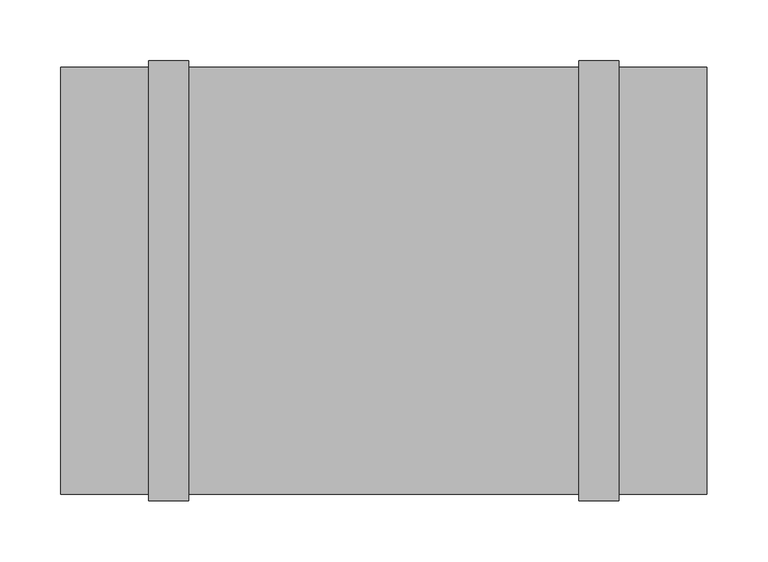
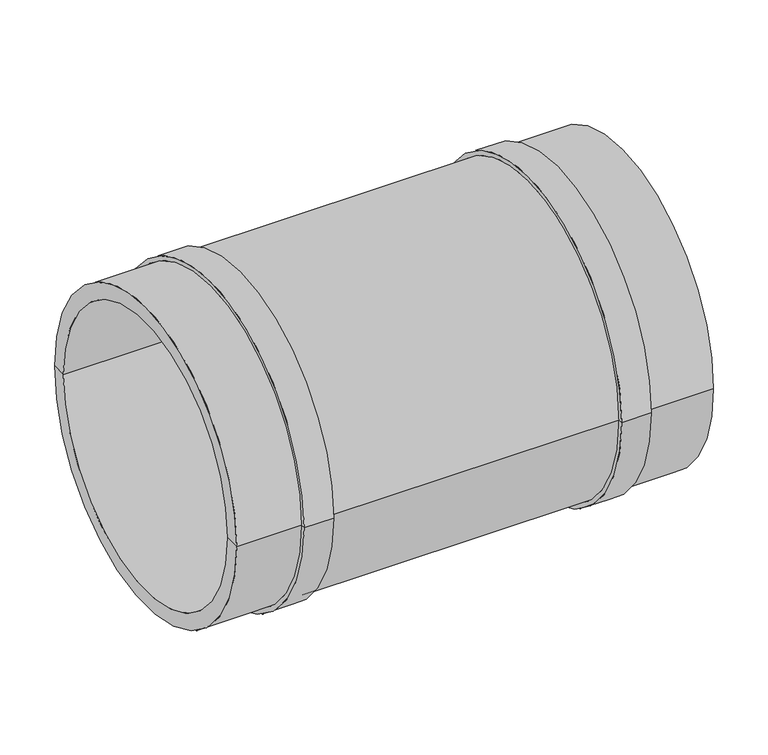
"""IFC4 building model written with IfcOpenShell, lengths in millimetres: pipe fitting geometry, PlastigamaWavin_Unionesdetubería_Presión UZ_UnióndeReparación : Unión Reparación Larga U/Z."""

from ifc_helpers import new_model, si_unit, frame, origin, place, context, project, spatial, polyline, circle_curve, source, transform, mapped, element, save
from ifc_brep_helpers import plane_surface, cylinder_surface, revolved_surface, advanced_brep


def pipe_fitting_89f5fbe8(model_context):
    return source(origin(), model_context, "Body", "AdvancedBrep", [
        advanced_brep(
        [(-265.0, -175.3, 0.0), (-265.0, 175.3, 0.0), (-193.0, 175.3, 0.0), (-193.0, -175.3, 0.0), (-265.0, -158.05, 0.0), (-265.0, 158.05, 0.0), (265.0, -158.05, 0.0), (265.0, 158.05, 0.0), (-193.0, -180.3, 0.0), (-193.0, 180.3, 0.0), (-160.0, 180.3, 0.0), (-160.0, -180.3, 0.0), (265.0, -175.3, 0.0), (265.0, 175.3, 0.0), (193.0, -175.3, 0.0), (193.0, 175.3, 0.0), (193.0, -180.3, 0.0), (193.0, 180.3, 0.0), (160.0, -180.3, 0.0), (160.0, 180.3, 0.0), (160.0, -175.3, 0.0), (160.0, 175.3, 0.0), (-160.0, -175.3, 0.0), (-160.0, 175.3, 0.0)],
        [
            (0, 1, circle_curve(frame((-265.0, 0.0, 0.0), z_axis=(1.0, 0.0, 0.0), x_axis=(0.0, 1.0, 0.0)), 175.3)),
            (1, 2),
            (2, 3, circle_curve(frame((-193.0, 0.0, 0.0), z_axis=(-1.0, 0.0, 0.0), x_axis=(0.0, 1.0, 0.0)), 175.3)),
            (3, 0),
            (1, 0, circle_curve(frame((-265.0, 0.0, 0.0), z_axis=(1.0, 0.0, 0.0), x_axis=(0.0, 1.0, 0.0)), 175.3)),
            (3, 2, circle_curve(frame((-193.0, 0.0, 0.0), z_axis=(-1.0, 0.0, 0.0), x_axis=(0.0, 1.0, 0.0)), 175.3)),
            (4, 5, circle_curve(frame((-265.0, 0.0, 0.0), z_axis=(1.0, 0.0, 0.0), x_axis=(0.0, 1.0, 0.0)), 158.05)),
            (5, 1),
            (0, 4),
            (5, 4, circle_curve(frame((-265.0, 0.0, 0.0), z_axis=(1.0, 0.0, 0.0), x_axis=(0.0, 1.0, 0.0)), 158.05)),
            (6, 7, circle_curve(frame((265.0, 0.0, 0.0), z_axis=(1.0, 0.0, 0.0), x_axis=(0.0, 1.0, 0.0)), 158.05)),
            (7, 5),
            (4, 6),
            (7, 6, circle_curve(frame((265.0, 0.0, 0.0), z_axis=(1.0, 0.0, 0.0), x_axis=(0.0, 1.0, 0.0)), 158.05)),
            (8, 9, circle_curve(frame((-193.0, 0.0, 0.0), z_axis=(1.0, 0.0, 0.0), x_axis=(0.0, 1.0, 0.0)), 180.3)),
            (9, 10),
            (10, 11, circle_curve(frame((-160.0, 0.0, 0.0), z_axis=(-1.0, 0.0, 0.0), x_axis=(0.0, 1.0, 0.0)), 180.3)),
            (11, 8),
            (9, 8, circle_curve(frame((-193.0, 0.0, 0.0), z_axis=(1.0, 0.0, 0.0), x_axis=(0.0, 1.0, 0.0)), 180.3)),
            (11, 10, circle_curve(frame((-160.0, 0.0, 0.0), z_axis=(-1.0, 0.0, 0.0), x_axis=(0.0, 1.0, 0.0)), 180.3)),
            (2, 9),
            (8, 3),
            (12, 13, circle_curve(frame((265.0, 0.0, 0.0), z_axis=(1.0, 0.0, 0.0), x_axis=(0.0, 1.0, 0.0)), 175.3)),
            (13, 7),
            (6, 12),
            (13, 12, circle_curve(frame((265.0, 0.0, 0.0), z_axis=(1.0, 0.0, 0.0), x_axis=(0.0, 1.0, 0.0)), 175.3)),
            (14, 15, circle_curve(frame((193.0, 0.0, 0.0), z_axis=(1.0, 0.0, 0.0), x_axis=(0.0, 1.0, 0.0)), 175.3)),
            (15, 13),
            (12, 14),
            (15, 14, circle_curve(frame((193.0, 0.0, 0.0), z_axis=(1.0, 0.0, 0.0), x_axis=(0.0, 1.0, 0.0)), 175.3)),
            (16, 17, circle_curve(frame((193.0, 0.0, 0.0), z_axis=(1.0, 0.0, 0.0), x_axis=(0.0, 1.0, 0.0)), 180.3)),
            (17, 15),
            (14, 16),
            (17, 16, circle_curve(frame((193.0, 0.0, 0.0), z_axis=(1.0, 0.0, 0.0), x_axis=(0.0, 1.0, 0.0)), 180.3)),
            (18, 19, circle_curve(frame((160.0, 0.0, 0.0), z_axis=(1.0, 0.0, 0.0), x_axis=(0.0, 1.0, 0.0)), 180.3)),
            (19, 17),
            (16, 18),
            (19, 18, circle_curve(frame((160.0, 0.0, 0.0), z_axis=(1.0, 0.0, 0.0), x_axis=(0.0, 1.0, 0.0)), 180.3)),
            (20, 21, circle_curve(frame((160.0, 0.0, 0.0), z_axis=(1.0, 0.0, 0.0), x_axis=(0.0, 1.0, 0.0)), 175.3)),
            (21, 19),
            (18, 20),
            (21, 20, circle_curve(frame((160.0, 0.0, 0.0), z_axis=(1.0, 0.0, 0.0), x_axis=(0.0, 1.0, 0.0)), 175.3)),
            (22, 23, circle_curve(frame((-160.0, 0.0, 0.0), z_axis=(1.0, 0.0, 0.0), x_axis=(0.0, 1.0, 0.0)), 175.3)),
            (23, 21),
            (20, 22),
            (23, 22, circle_curve(frame((-160.0, 0.0, 0.0), z_axis=(1.0, 0.0, 0.0), x_axis=(0.0, 1.0, 0.0)), 175.3)),
            (10, 23),
            (22, 11),
        ],
        [
            cylinder_surface(frame((-265.0, 0.0, 0.0), z_axis=(-1.0, 0.0, 0.0), x_axis=(0.0, 1.0, 0.0)), 175.3),
            plane_surface(frame((-265.0, 0.0, 0.0), z_axis=(-1.0, 0.0, 0.0), x_axis=(0.0, 1.0, 0.0))),
            revolved_surface(polyline([(-265.0, 158.05, 0.0), (265.0, 158.05, 0.0)]), (-265.0, 0.0, 0.0), (-1.0, 0.0, 0.0)),
            cylinder_surface(frame((-265.0, 0.0, 0.0), z_axis=(-1.0, 0.0, 0.0), x_axis=(0.0, 1.0, 0.0)), 180.3),
            plane_surface(frame((-193.0, 0.0, 0.0), z_axis=(-1.0, 0.0, 0.0), x_axis=(0.0, 1.0, 0.0))),
            plane_surface(frame((265.0, 0.0, 0.0), z_axis=(1.0, 0.0, 0.0), x_axis=(0.0, 1.0, 0.0))),
            plane_surface(frame((193.0, 0.0, 0.0), z_axis=(1.0, 0.0, 0.0), x_axis=(0.0, 1.0, 0.0))),
            plane_surface(frame((160.0, 0.0, 0.0), z_axis=(-1.0, 0.0, 0.0), x_axis=(0.0, 1.0, 0.0))),
            plane_surface(frame((-160.0, 0.0, 0.0), z_axis=(1.0, 0.0, 0.0), x_axis=(0.0, 1.0, 0.0))),
        ],
        [
            (0, [[1, 2, 3, 4]]),
            (0, [[5, -4, 6, -2]]),
            (1, [[7, 8, -1, 9]]),
            (1, [[10, -9, -5, -8]]),
            (2, [[11, 12, -7, 13]]),
            (2, [[14, -13, -10, -12]]),
            (3, [[15, 16, 17, 18]]),
            (3, [[19, -18, 20, -16]]),
            (4, [[-3, 21, -15, 22]]),
            (4, [[-6, -22, -19, -21]]),
            (5, [[23, 24, -11, 25]]),
            (5, [[26, -25, -14, -24]]),
            (0, [[27, 28, -23, 29]]),
            (0, [[30, -29, -26, -28]]),
            (6, [[31, 32, -27, 33]]),
            (6, [[34, -33, -30, -32]]),
            (3, [[35, 36, -31, 37]]),
            (3, [[38, -37, -34, -36]]),
            (7, [[39, 40, -35, 41]]),
            (7, [[42, -41, -38, -40]]),
            (0, [[43, 44, -39, 45]]),
            (0, [[46, -45, -42, -44]]),
            (8, [[-17, 47, -43, 48]]),
            (8, [[-20, -48, -46, -47]]),
        ],
    ),
    ])


if __name__ == "__main__":
    model = new_model("IFC4")
    model_context = context("Model", 3, world=origin())
    ifc_project = project(units=[si_unit("LENGTHUNIT", "METRE", prefix="MILLI")], contexts=[model_context])
    site = spatial("IfcSite", under=ifc_project)
    building = spatial("IfcBuilding", under=site)
    placement = place(None, origin())
    pipe_fitting_shape = pipe_fitting_89f5fbe8(model_context)
    element("IfcPipeFitting", 1, ObjectType="PlastigamaWavin_Unionesdetubería_Presión UZ_UnióndeReparación : Unión Reparación Larga U/Z", at=placement, inside=building, context=model_context, shape_type="MappedRepresentation", body=[
        mapped(pipe_fitting_shape, transform((0.0, 0.0, 0.0), x_axis=(1.0, 0.0, 0.0), y_axis=(0.0, 1.0, 0.0), z_axis=(0.0, 0.0, 1.0))),
    ])
    save(model, "model.ifc")
